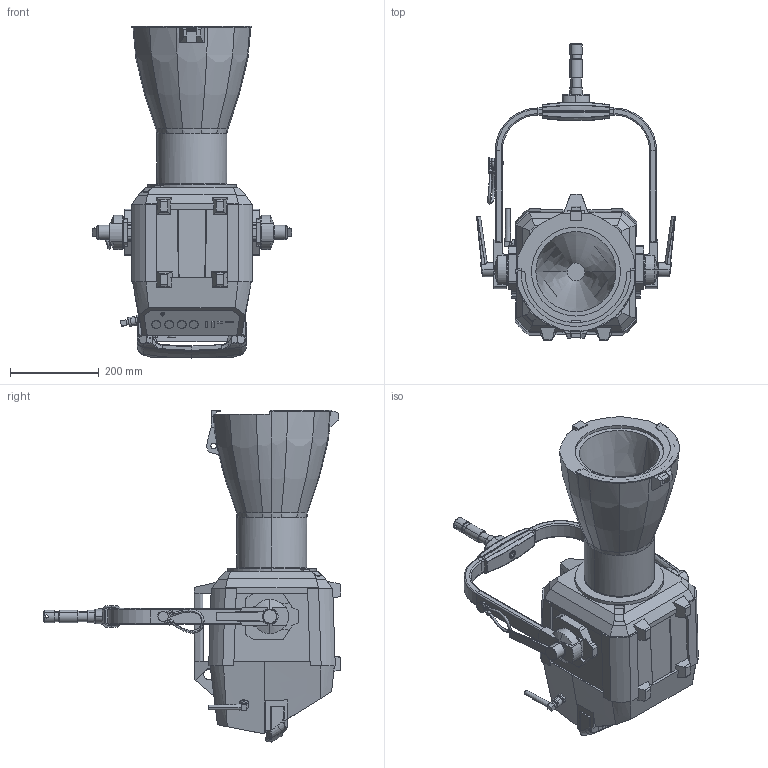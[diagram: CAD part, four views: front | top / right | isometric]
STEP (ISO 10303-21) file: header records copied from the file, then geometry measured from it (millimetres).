
FILE_DESCRIPTION (( 'STEP AP214' ), '1' );
FILE_NAME ('Orbiter OF 15°.STEP', '2020-04-30T11:56:06', ( '' ), ( '' ), 'SwSTEP 2.0', 'SolidWorks 2018', '' );
FILE_SCHEMA (( 'AUTOMOTIVE_DESIGN' ));
Length unit declared in the file: millimetre
Products named in the file (7): Orbiter_import_part; OF15_Part; Set-Zapfen-lang-Doppelbuegel_import_part; Antenne_import_part; Haltebuegel_import_part; Orbiter OF 15°; Control_Panel_import_part
Assembly tree (6 placements, depth 2):
  Orbiter OF 15°
    Orbiter_import_part
    Control_Panel_import_part
    Set-Zapfen-lang-Doppelbuegel_import_part
    Antenne_import_part
    Haltebuegel_import_part
    OF15_Part
Bounding box: 447.62 x 669.95 x 746.7 mm (x, y, z)
Volume: 23132966.6 mm3; surface area: 1847382.8 mm2
Topology: 6 solids, 10 shells, 1405 faces, 3684 edges, 2336 vertices
Faces by surface type: plane 662, bspline 322, cylinder 305, torus 53, cone 37, sphere 26
Entity records: 74019 total; most frequent: CARTESIAN_POINT 26701, ORIENTED_EDGE 7336, DIRECTION 5548, EDGE_CURVE 3668, VERTEX_POINT 2330, AXIS2_PLACEMENT_3D 1906, VECTOR 1736, LINE 1736
